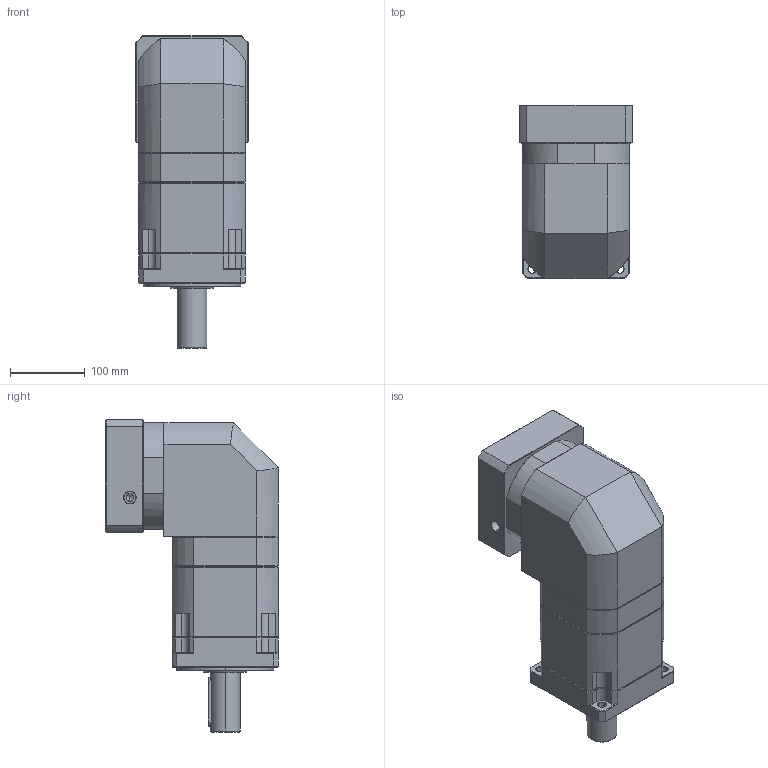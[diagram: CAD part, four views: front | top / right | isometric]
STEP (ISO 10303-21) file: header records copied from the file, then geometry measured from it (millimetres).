
FILE_DESCRIPTION (( 'STEP AP214' ), '1' );
FILE_NAME ('ZBR142A-D40-L3-P2-32-130-165-M10.step', '2023-09-02T07:13:41', ( '' ), ( '' ), 'SwSTEP 2.0', 'SolidWorks 2016', '' );
FILE_SCHEMA (( 'AUTOMOTIVE_DESIGN' ));
Length unit declared in the file: millimetre
Products named in the file (1): ZBR142A-D40-L3-P2-32-130-165-M10
Bounding box: 150 x 231 x 417.7 mm (x, y, z)
Volume: 7009644.7 mm3; surface area: 440506.7 mm2
Topology: 6 solids, 6 shells, 2336 faces, 6091 edges, 3862 vertices
Faces by surface type: plane 1132, cylinder 428, bspline 401, cone 340, torus 35
Entity records: 131080 total; most frequent: CARTESIAN_POINT 51553, ORIENTED_EDGE 12122, DIRECTION 9589, EDGE_CURVE 6061, LINE 3923, VECTOR 3923, VERTEX_POINT 3862, AXIS2_PLACEMENT_3D 2833
